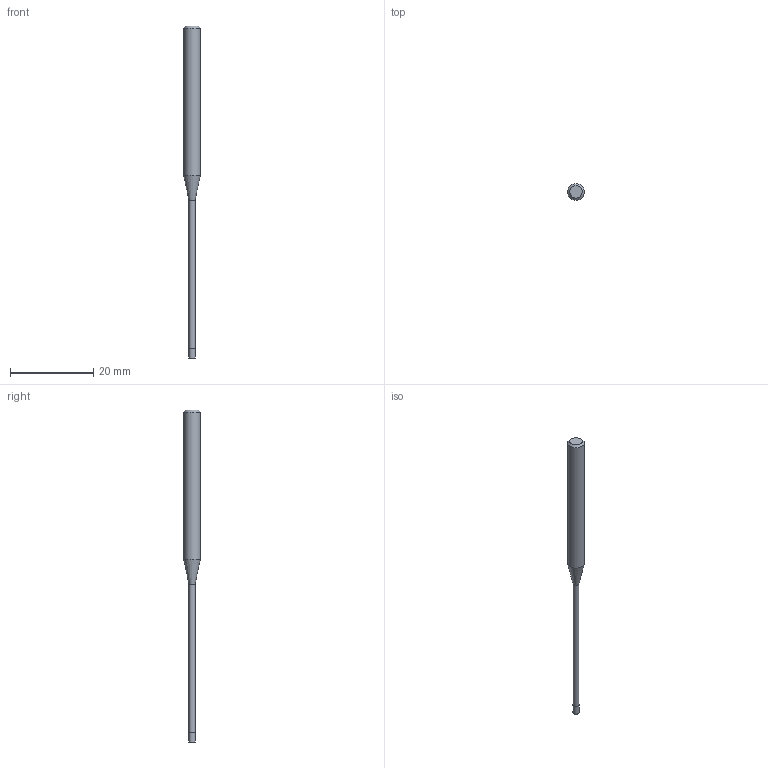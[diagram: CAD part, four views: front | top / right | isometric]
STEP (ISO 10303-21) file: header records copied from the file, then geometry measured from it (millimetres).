
FILE_DESCRIPTION((''),'2;1');
FILE_NAME('C:\Users\nsx150\AppData\Local\Temp\Mastercam 2021\17T8Q8S9EB\TEMP.step','2021-04-21T14:26:55',(''),(''),'STEP Write','Mastercam 2021 ... CNC Software, Inc.','');
FILE_SCHEMA(('AUTOMOTIVE_DESIGN'));
Length unit declared in the file: millimetre
Products named in the file (1): None
Bounding box: 4 x 4 x 80 mm (x, y, z)
Volume: 551.5 mm3; surface area: 692.1 mm2
Topology: 2 solids, 2 shells, 9 faces, 12 edges, 7 vertices
Faces by surface type: plane 4, cylinder 3, cone 2
Full cylindrical faces by diameter (mm): 1.45 x1, 1.5 x1, 4 x1
Entity records: 211 total; most frequent: DIRECTION 36, CARTESIAN_POINT 25, AXIS2_PLACEMENT_3D 18, ORIENTED_EDGE 14, EDGE_LOOP 14, STYLED_ITEM 12, ADVANCED_FACE 9, FACE_BOUND 8
